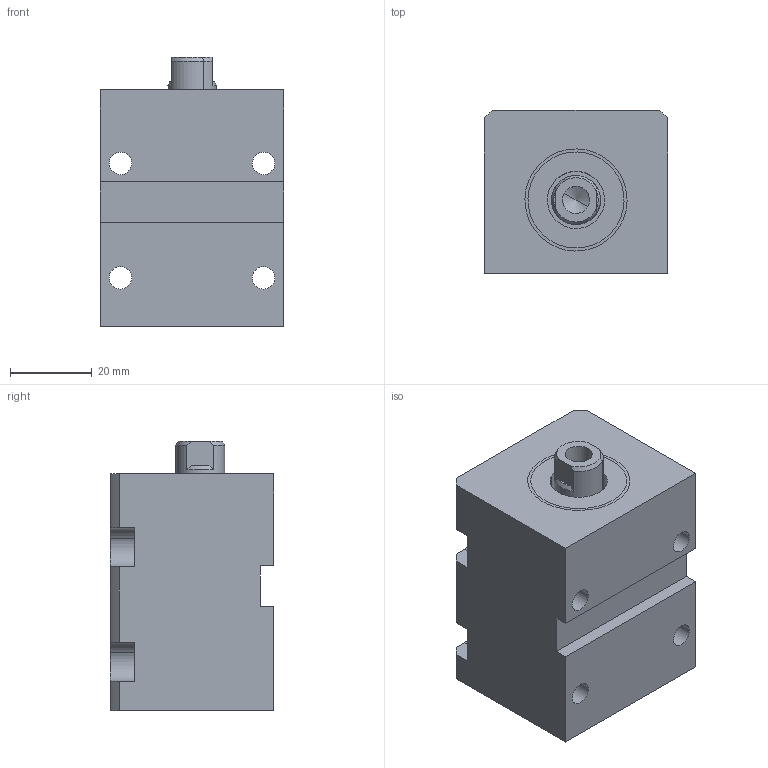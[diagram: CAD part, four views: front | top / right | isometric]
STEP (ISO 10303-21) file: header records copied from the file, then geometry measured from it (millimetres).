
FILE_DESCRIPTION(('CATIA V5 STEP Exchange'),'2;1');
FILE_NAME('\\Kjf-102\kjf_tc\Hydraulic_Clamp\Standard\BLOCK_CLAMP\BDV-20xx\Rev_B\배포도면\BDH-2015_B.stp','2025-03-14T06:55:10+00:00',('none'),('none'),'CATIA Version 5 Release 19 SP 6 (IN-10)','CATIA V5 STEP AP203','none');
FILE_SCHEMA(('CONFIG_CONTROL_DESIGN'));
Length unit declared in the file: millimetre
Products named in the file (1): BDH-20xx_A
Assembly tree (4 placements, depth 2):
  BDH-20xx_A
    #58
    #81
    #1701
    #2287
Bounding box: 45 x 40 x 66 mm (x, y, z)
Volume: 86062.1 mm3; surface area: 26053.1 mm2
Topology: 3 solids, 3 shells, 83 faces, 220 edges, 147 vertices
Faces by surface type: cylinder 40, plane 35, cone 8
Entity records: 2508 total; most frequent: CARTESIAN_POINT 461, ORIENTED_EDGE 436, DIRECTION 322, EDGE_CURVE 218, AXIS2_PLACEMENT_3D 150, VERTEX_POINT 147, VECTOR 116, LINE 116
